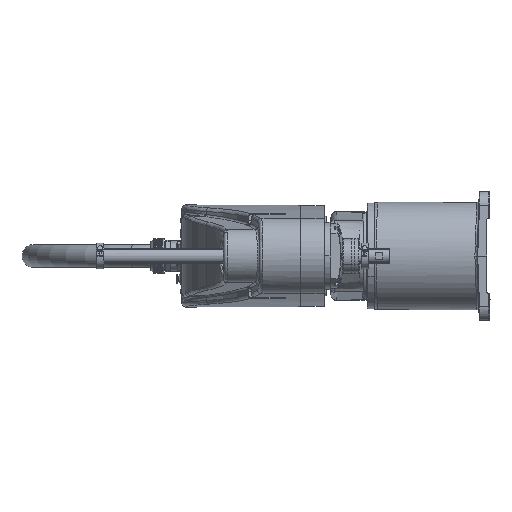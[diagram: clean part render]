
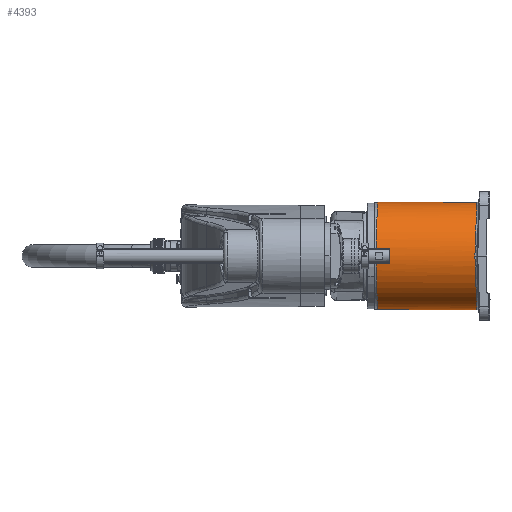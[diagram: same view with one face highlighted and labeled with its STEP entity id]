
A CAD part, left-side view. The second image highlights one B-rep face of the part: STEP entity #4393.
In plain terms, the highlighted cylindrical face has radius 75 mm (diameter 150 mm), a partial arc.
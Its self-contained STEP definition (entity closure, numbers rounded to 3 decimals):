
#659=CYLINDRICAL_SURFACE('',#31009,75.);
#3364=B_SPLINE_CURVE_WITH_KNOTS('',3,(#44278,#44279,#44280,#44281,#44282,
#44283,#44284,#44285,#44286,#44287,#44288,#44289,#44290,#44291,#44292,#44293,
#44294,#44295,#44296,#44297,#44298,#44299,#44300,#44301,#44302,#44303),
 .UNSPECIFIED.,.F.,.F.,(4,2,2,2,2,2,2,2,2,2,2,2,4),(0.,0.125,
0.25,0.313,0.375,0.438,
0.469,0.484,0.5,0.625,
0.688,0.75,1.),.UNSPECIFIED.);
#3368=B_SPLINE_CURVE_WITH_KNOTS('',3,(#44401,#44402,#44403,#44404,#44405,
#44406,#44407,#44408,#44409,#44410),.UNSPECIFIED.,.F.,.F.,(4,2,2,2,4),(0.,
0.25,0.5,0.75,1.),.UNSPECIFIED.);
#3386=B_SPLINE_CURVE_WITH_KNOTS('',3,(#44899,#44900,#44901,#44902,#44903,
#44904,#44905,#44906,#44907,#44908),.UNSPECIFIED.,.F.,.F.,(4,2,2,2,4),(0.,
0.25,0.5,0.75,1.),.UNSPECIFIED.);
#3387=B_SPLINE_CURVE_WITH_KNOTS('',3,(#44910,#44911,#44912,#44913,#44914,
#44915,#44916,#44917,#44918,#44919),.UNSPECIFIED.,.F.,.F.,(4,2,2,2,4),(0.,
0.25,0.5,0.75,1.),.UNSPECIFIED.);
#3388=B_SPLINE_CURVE_WITH_KNOTS('',3,(#44923,#44924,#44925,#44926,#44927,
#44928,#44929,#44930,#44931,#44932),.UNSPECIFIED.,.F.,.F.,(4,2,2,2,4),(0.,
0.25,0.5,0.75,1.),.UNSPECIFIED.);
#3389=B_SPLINE_CURVE_WITH_KNOTS('',3,(#44934,#44935,#44936,#44937,#44938,
#44939,#44940,#44941,#44942,#44943,#44944,#44945,#44946,#44947,#44948,#44949,
#44950,#44951,#44952,#44953,#44954,#44955,#44956,#44957,#44958,#44959,#44960),
 .UNSPECIFIED.,.F.,.F.,(4,2,2,2,2,2,1,2,2,2,2,2,2,4),(0.,0.125,
0.187,0.25,0.375,0.437,
0.469,0.484,0.5,0.562,
0.625,0.75,0.875,1.),.UNSPECIFIED.);
#4393=ADVANCED_FACE('',(#6905),#659,.T.);
#6905=FACE_OUTER_BOUND('',#8710,.T.);
#8710=EDGE_LOOP('',(#11017,#11018,#11019,#11020,#11021,#11022,#11023,#11024));
#11017=ORIENTED_EDGE('',*,*,#22886,.F.);
#11018=ORIENTED_EDGE('',*,*,#22888,.F.);
#11019=ORIENTED_EDGE('',*,*,#22889,.F.);
#11020=ORIENTED_EDGE('',*,*,#22890,.F.);
#11021=ORIENTED_EDGE('',*,*,#22891,.F.);
#11022=ORIENTED_EDGE('',*,*,#22892,.F.);
#11023=ORIENTED_EDGE('',*,*,#22848,.F.);
#11024=ORIENTED_EDGE('',*,*,#22852,.F.);
#19966=VERTEX_POINT('',#44304);
#19967=VERTEX_POINT('',#44305);
#19968=VERTEX_POINT('',#44399);
#19990=VERTEX_POINT('',#44894);
#19991=VERTEX_POINT('',#44909);
#19992=VERTEX_POINT('',#44920);
#19993=VERTEX_POINT('',#44922);
#19994=VERTEX_POINT('',#44933);
#22848=EDGE_CURVE('',#19966,#19967,#3364,.T.);
#22852=EDGE_CURVE('',#19968,#19966,#3368,.T.);
#22886=EDGE_CURVE('',#19990,#19968,#27268,.T.);
#22888=EDGE_CURVE('',#19991,#19990,#3386,.T.);
#22889=EDGE_CURVE('',#19992,#19991,#3387,.T.);
#22890=EDGE_CURVE('',#19993,#19992,#27270,.T.);
#22891=EDGE_CURVE('',#19994,#19993,#3388,.T.);
#22892=EDGE_CURVE('',#19967,#19994,#3389,.T.);
#27268=LINE('',#44895,#29118);
#27270=LINE('',#44921,#29120);
#29118=VECTOR('',#34478,1.);
#29120=VECTOR('',#34484,1.);
#31009=AXIS2_PLACEMENT_3D('',#44961,#34485,#34486);
#34478=DIRECTION('',(0.,0.,-1.));
#34484=DIRECTION('',(0.,0.,1.));
#34485=DIRECTION('',(0.,0.,-1.));
#34486=DIRECTION('',(1.,0.,0.));
#44278=CARTESIAN_POINT('',(253.693,13.941,20.638));
#44279=CARTESIAN_POINT('',(253.779,13.488,20.654));
#44280=CARTESIAN_POINT('',(253.878,12.946,20.672));
#44281=CARTESIAN_POINT('',(254.12,11.48,20.716));
#44282=CARTESIAN_POINT('',(254.199,10.94,20.731));
#44283=CARTESIAN_POINT('',(254.297,10.247,20.75));
#44284=CARTESIAN_POINT('',(254.333,9.987,20.757));
#44285=CARTESIAN_POINT('',(254.408,9.406,20.774));
#44286=CARTESIAN_POINT('',(254.443,9.134,20.781));
#44287=CARTESIAN_POINT('',(254.536,8.34,20.805));
#44288=CARTESIAN_POINT('',(254.573,7.995,20.815));
#44289=CARTESIAN_POINT('',(254.618,7.559,20.828));
#44290=CARTESIAN_POINT('',(254.632,7.426,20.832));
#44291=CARTESIAN_POINT('',(254.649,7.247,20.837));
#44292=CARTESIAN_POINT('',(254.655,7.191,20.839));
#44293=CARTESIAN_POINT('',(254.665,7.085,20.842));
#44294=CARTESIAN_POINT('',(254.666,7.069,20.842));
#44295=CARTESIAN_POINT('',(254.733,6.353,20.864));
#44296=CARTESIAN_POINT('',(254.782,5.742,20.882));
#44297=CARTESIAN_POINT('',(254.843,4.867,20.909));
#44298=CARTESIAN_POINT('',(254.861,4.582,20.917));
#44299=CARTESIAN_POINT('',(254.893,4.025,20.934));
#44300=CARTESIAN_POINT('',(254.905,3.784,20.942));
#44301=CARTESIAN_POINT('',(254.974,2.311,20.986));
#44302=CARTESIAN_POINT('',(255.,1.147,21.021));
#44303=CARTESIAN_POINT('',(255.,0.,21.053));
#44304=CARTESIAN_POINT('',(253.693,13.941,20.638));
#44305=CARTESIAN_POINT('',(255.,0.,21.053));
#44399=CARTESIAN_POINT('',(180.,75.,18.421));
#44401=CARTESIAN_POINT('',(180.,75.,18.421));
#44402=CARTESIAN_POINT('',(188.649,75.,18.421));
#44403=CARTESIAN_POINT('',(197.296,73.489,18.476));
#44404=CARTESIAN_POINT('',(213.566,67.624,18.689));
#44405=CARTESIAN_POINT('',(221.19,63.271,18.847));
#44406=CARTESIAN_POINT('',(234.508,52.236,19.247));
#44407=CARTESIAN_POINT('',(240.204,45.555,19.49));
#44408=CARTESIAN_POINT('',(248.991,30.659,20.031));
#44409=CARTESIAN_POINT('',(252.084,22.445,20.329));
#44410=CARTESIAN_POINT('',(253.692,13.946,20.638));
#44894=CARTESIAN_POINT('',(180.,75.,157.275));
#44895=CARTESIAN_POINT('',(180.,75.,157.275));
#44899=CARTESIAN_POINT('',(255.,0.012,159.615));
#44900=CARTESIAN_POINT('',(254.997,9.83,159.309));
#44901=CARTESIAN_POINT('',(253.046,19.643,159.003));
#44902=CARTESIAN_POINT('',(245.53,37.776,158.437));
#44903=CARTESIAN_POINT('',(239.97,46.098,158.177));
#44904=CARTESIAN_POINT('',(226.087,59.977,157.744));
#44905=CARTESIAN_POINT('',(217.766,65.537,157.571));
#44906=CARTESIAN_POINT('',(199.631,73.047,157.336));
#44907=CARTESIAN_POINT('',(189.818,75.,157.275));
#44908=CARTESIAN_POINT('',(180.,75.,157.275));
#44909=CARTESIAN_POINT('',(255.,0.012,159.615));
#44910=CARTESIAN_POINT('',(180.,-75.,157.274));
#44911=CARTESIAN_POINT('',(189.82,-75.,157.274));
#44912=CARTESIAN_POINT('',(199.635,-73.047,157.335));
#44913=CARTESIAN_POINT('',(217.773,-65.533,157.57));
#44914=CARTESIAN_POINT('',(226.095,-59.971,157.744));
#44915=CARTESIAN_POINT('',(239.979,-46.087,158.177));
#44916=CARTESIAN_POINT('',(245.538,-37.762,158.437));
#44917=CARTESIAN_POINT('',(253.051,-19.624,159.003));
#44918=CARTESIAN_POINT('',(255.,-9.808,159.309));
#44919=CARTESIAN_POINT('',(255.,0.012,159.615));
#44920=CARTESIAN_POINT('',(180.,-75.,157.274));
#44921=CARTESIAN_POINT('',(180.,-75.,18.421));
#44922=CARTESIAN_POINT('',(180.,-75.,18.421));
#44923=CARTESIAN_POINT('',(253.69,-13.955,20.638));
#44924=CARTESIAN_POINT('',(252.081,-22.453,20.33));
#44925=CARTESIAN_POINT('',(248.988,-30.667,20.031));
#44926=CARTESIAN_POINT('',(240.2,-45.56,19.491));
#44927=CARTESIAN_POINT('',(234.504,-52.24,19.248));
#44928=CARTESIAN_POINT('',(221.186,-63.273,18.847));
#44929=CARTESIAN_POINT('',(213.563,-67.626,18.689));
#44930=CARTESIAN_POINT('',(197.294,-73.489,18.476));
#44931=CARTESIAN_POINT('',(188.649,-75.,18.421));
#44932=CARTESIAN_POINT('',(180.,-75.,18.421));
#44933=CARTESIAN_POINT('',(253.69,-13.954,20.638));
#44934=CARTESIAN_POINT('',(255.,0.,21.053));
#44935=CARTESIAN_POINT('',(255.,-0.575,21.037));
#44936=CARTESIAN_POINT('',(254.993,-1.153,21.02));
#44937=CARTESIAN_POINT('',(254.973,-2.026,20.994));
#44938=CARTESIAN_POINT('',(254.965,-2.318,20.986));
#44939=CARTESIAN_POINT('',(254.944,-2.905,20.968));
#44940=CARTESIAN_POINT('',(254.931,-3.229,20.958));
#44941=CARTESIAN_POINT('',(254.894,-4.023,20.934));
#44942=CARTESIAN_POINT('',(254.862,-4.58,20.917));
#44943=CARTESIAN_POINT('',(254.802,-5.456,20.891));
#44944=CARTESIAN_POINT('',(254.78,-5.755,20.882));
#44945=CARTESIAN_POINT('',(254.742,-6.214,20.868));
#44946=CARTESIAN_POINT('',(254.723,-6.445,20.861));
#44947=CARTESIAN_POINT('',(254.702,-6.681,20.854));
#44948=CARTESIAN_POINT('',(254.688,-6.839,20.849));
#44949=CARTESIAN_POINT('',(254.677,-6.952,20.846));
#44950=CARTESIAN_POINT('',(254.656,-7.18,20.839));
#44951=CARTESIAN_POINT('',(254.633,-7.417,20.832));
#44952=CARTESIAN_POINT('',(254.573,-8.001,20.815));
#44953=CARTESIAN_POINT('',(254.529,-8.399,20.803));
#44954=CARTESIAN_POINT('',(254.406,-9.445,20.772));
#44955=CARTESIAN_POINT('',(254.322,-10.07,20.755));
#44956=CARTESIAN_POINT('',(254.203,-10.912,20.732));
#44957=CARTESIAN_POINT('',(254.112,-11.528,20.715));
#44958=CARTESIAN_POINT('',(253.881,-12.927,20.673));
#44959=CARTESIAN_POINT('',(253.776,-13.502,20.654));
#44960=CARTESIAN_POINT('',(253.69,-13.954,20.638));
#44961=CARTESIAN_POINT('',(180.,0.,165.));
